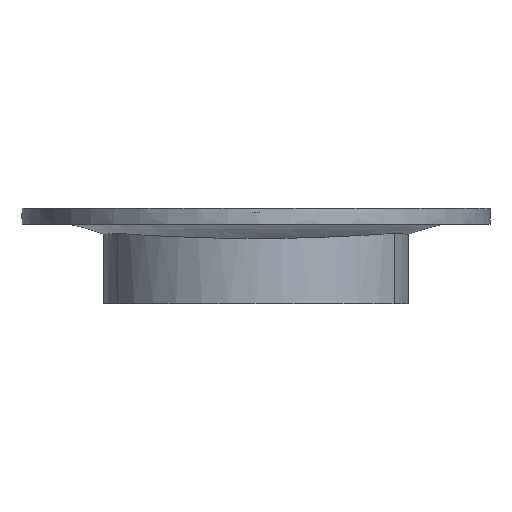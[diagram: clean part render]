
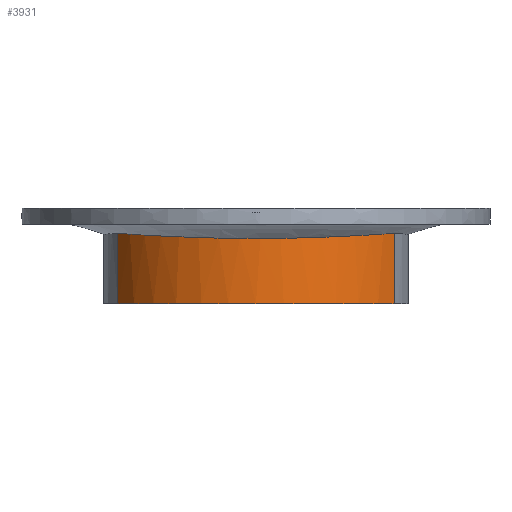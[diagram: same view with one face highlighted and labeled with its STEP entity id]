
A CAD part, left-side view. The second image highlights one B-rep face of the part: STEP entity #3931.
In plain terms, the highlighted cylindrical face has radius 63.5 mm (diameter 127 mm), a partial arc.
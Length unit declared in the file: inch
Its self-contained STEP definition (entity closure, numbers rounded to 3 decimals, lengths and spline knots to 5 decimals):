
#267=B_SPLINE_CURVE_WITH_KNOTS('',3,(#7784,#7785,#7786,#7787,#7788,#7789,
#7790,#7791,#7792,#7793,#7794,#7795,#7796,#7797,#7798,#7799),
 .UNSPECIFIED.,.F.,.F.,(4,2,2,2,2,2,2,4),(-13.34077,-11.83405,
-10.42587,-7.90444,-6.44093,-4.77774,
-2.26884,0.),.UNSPECIFIED.);
#403=CYLINDRICAL_SURFACE('',#4088,2.5);
#420=CIRCLE('',#4031,2.5);
#656=FACE_OUTER_BOUND('',#905,.T.);
#905=EDGE_LOOP('',(#3587,#3588,#3589,#3590));
#1207=LINE('',#7729,#1501);
#1210=LINE('',#7782,#1504);
#1501=VECTOR('',#4669,0.3937);
#1504=VECTOR('',#4674,0.3937);
#1868=VERTEX_POINT('',#7445);
#1869=VERTEX_POINT('',#7453);
#1904=VERTEX_POINT('',#7721);
#1907=VERTEX_POINT('',#7777);
#2418=EDGE_CURVE('',#1868,#1869,#420,.T.);
#2469=EDGE_CURVE('',#1869,#1904,#1207,.T.);
#2475=EDGE_CURVE('',#1868,#1907,#1210,.T.);
#2476=EDGE_CURVE('',#1904,#1907,#267,.T.);
#3587=ORIENTED_EDGE('',*,*,#2476,.F.);
#3588=ORIENTED_EDGE('',*,*,#2469,.F.);
#3589=ORIENTED_EDGE('',*,*,#2418,.F.);
#3590=ORIENTED_EDGE('',*,*,#2475,.T.);
#3931=ADVANCED_FACE('',(#656),#403,.T.);
#4031=AXIS2_PLACEMENT_3D('',#7454,#4542,#4543);
#4088=AXIS2_PLACEMENT_3D('',#7783,#4675,#4676);
#4542=DIRECTION('center_axis',(0.,0.,-1.));
#4543=DIRECTION('ref_axis',(1.,0.,0.));
#4669=DIRECTION('',(0.,0.,1.));
#4674=DIRECTION('',(0.,0.,1.));
#4675=DIRECTION('center_axis',(0.,0.,1.));
#4676=DIRECTION('ref_axis',(-1.,0.,0.));
#7445=CARTESIAN_POINT('',(-1.24879,-2.16576,0.005));
#7453=CARTESIAN_POINT('',(-1.2488,2.16575,0.005));
#7454=CARTESIAN_POINT('Origin',(0.,0.,0.005));
#7721=CARTESIAN_POINT('',(-1.2488,2.16575,1.10833));
#7729=CARTESIAN_POINT('',(-1.2488,2.16575,0.005));
#7777=CARTESIAN_POINT('',(-1.24879,-2.16576,1.10833));
#7782=CARTESIAN_POINT('',(-1.24879,-2.16576,0.005));
#7783=CARTESIAN_POINT('Origin',(0.,0.,0.005));
#7784=CARTESIAN_POINT('Ctrl Pts',(-1.2488,2.16575,1.10833));
#7785=CARTESIAN_POINT('Ctrl Pts',(-1.42007,2.067,1.10134));
#7786=CARTESIAN_POINT('Ctrl Pts',(-1.57899,1.94829,1.09328));
#7787=CARTESIAN_POINT('Ctrl Pts',(-1.85614,1.68489,1.07712));
#7788=CARTESIAN_POINT('Ctrl Pts',(-1.97552,1.5432,1.06911));
#7789=CARTESIAN_POINT('Ctrl Pts',(-2.26204,1.11471,1.0482));
#7790=CARTESIAN_POINT('Ctrl Pts',(-2.38957,0.80591,1.03678));
#7791=CARTESIAN_POINT('Ctrl Pts',(-2.49024,0.29263,1.02769));
#7792=CARTESIAN_POINT('Ctrl Pts',(-2.50535,0.10052,1.02635));
#7793=CARTESIAN_POINT('Ctrl Pts',(-2.49034,-0.30959,
1.02768));
#7794=CARTESIAN_POINT('Ctrl Pts',(-2.45383,-0.52567,
1.03108));
#7795=CARTESIAN_POINT('Ctrl Pts',(-2.29307,-1.04889,1.04512));
#7796=CARTESIAN_POINT('Ctrl Pts',(-2.13525,-1.34124,1.05832));
#7797=CARTESIAN_POINT('Ctrl Pts',(-1.73571,-1.82368,1.08488));
#7798=CARTESIAN_POINT('Ctrl Pts',(-1.50657,-2.01712,1.09781));
#7799=CARTESIAN_POINT('Ctrl Pts',(-1.24879,-2.16576,1.10833));
